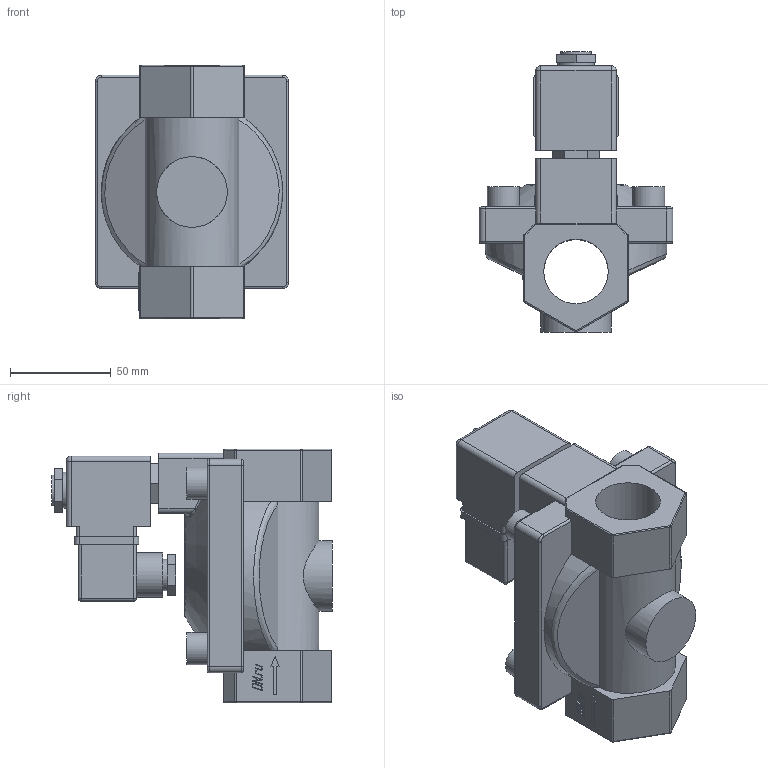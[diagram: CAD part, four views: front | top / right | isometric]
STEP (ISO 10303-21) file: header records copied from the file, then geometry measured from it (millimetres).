
FILE_DESCRIPTION(('STEP AP242'), '1');
FILE_NAME('VS400-VT-NC-220VAC 1 1-2 孰囡囗 尻蝠铎嚆龛蝽 DN.ru 捏40 畜16', '', ('UNSPECIFIED'), ('UNSPECIFIED'), 'C3D Converter', 'C3D Toolkit', '');
FILE_SCHEMA(('AP242_MANAGED_MODEL_BASED_3D_ENGINEERING_MIM_LF { 1 0 10303 442 1 1 4 }'));
Length unit declared in the file: millimetre
Products named in the file (1): VS400-VT-NC-220VAC 1 1-2
Bounding box: 96 x 139 x 126 mm (x, y, z)
Volume: 526944.7 mm3; surface area: 74309.4 mm2
Topology: 1 solids, 1 shells, 311 faces, 787 edges, 496 vertices
Faces by surface type: plane 149, cylinder 81, extrusion 40, torus 23, bspline 11, sphere 6, cone 1
Full cylindrical faces by diameter (mm): 15 x1, 15.5 x1, 16 x4, 18 x1, 22 x1, 32 x1, 35 x1
Entity records: 15463 total; most frequent: CARTESIAN_POINT 5591, ORIENTED_EDGE 1536, DIRECTION 1396, EDGE_CURVE 768, VECTOR 504, VERTEX_POINT 496, LINE 464, AXIS2_PLACEMENT_3D 446
